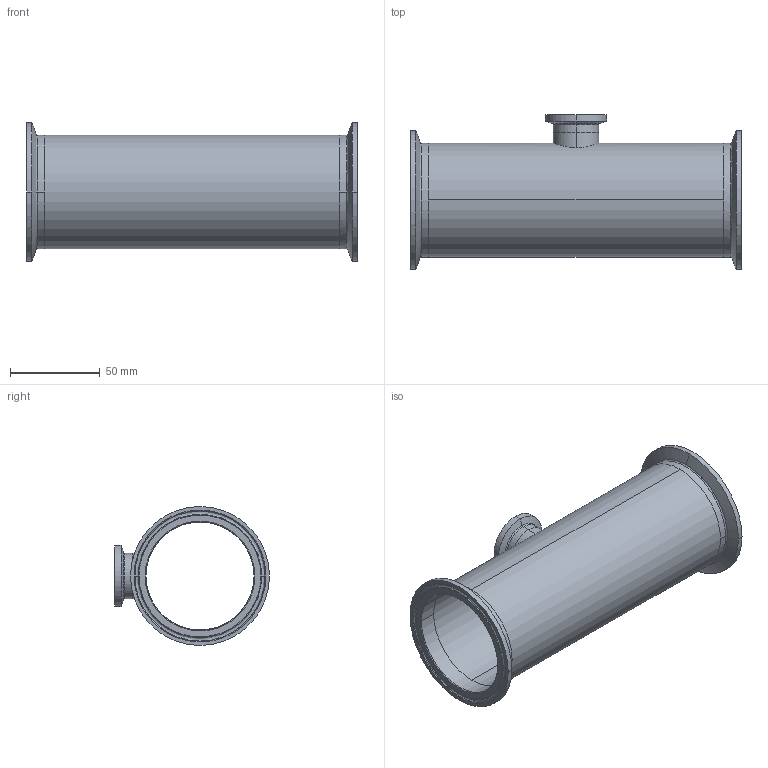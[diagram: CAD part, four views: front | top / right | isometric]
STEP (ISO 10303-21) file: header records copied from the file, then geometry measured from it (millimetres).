
FILE_DESCRIPTION (( 'STEP AP214' ), '1' );
FILE_NAME ('TEG7RS6L2.5x1.0-..Type A.STEP', '2016-05-24T09:36:35', ( 'eran' ), ( '' ), 'SwSTEP 2.0', 'SolidWorks 2016', '' );
FILE_SCHEMA (( 'AUTOMOTIVE_DESIGN' ));
Length unit declared in the file: millimetre
Products named in the file (1): TEG7RS6L2.5x1.0-..Type A
Bounding box: 184.2 x 86.3 x 77.39 mm (x, y, z)
Volume: 73734 mm3; surface area: 82260.6 mm2
Topology: 4 solids, 4 shells, 84 faces, 198 edges, 126 vertices
Faces by surface type: cylinder 28, bspline 28, cone 16, plane 12
Entity records: 4155 total; most frequent: CARTESIAN_POINT 2169, DIRECTION 426, ORIENTED_EDGE 396, EDGE_CURVE 198, AXIS2_PLACEMENT_3D 191, CIRCLE 134, VERTEX_POINT 126, EDGE_LOOP 98
